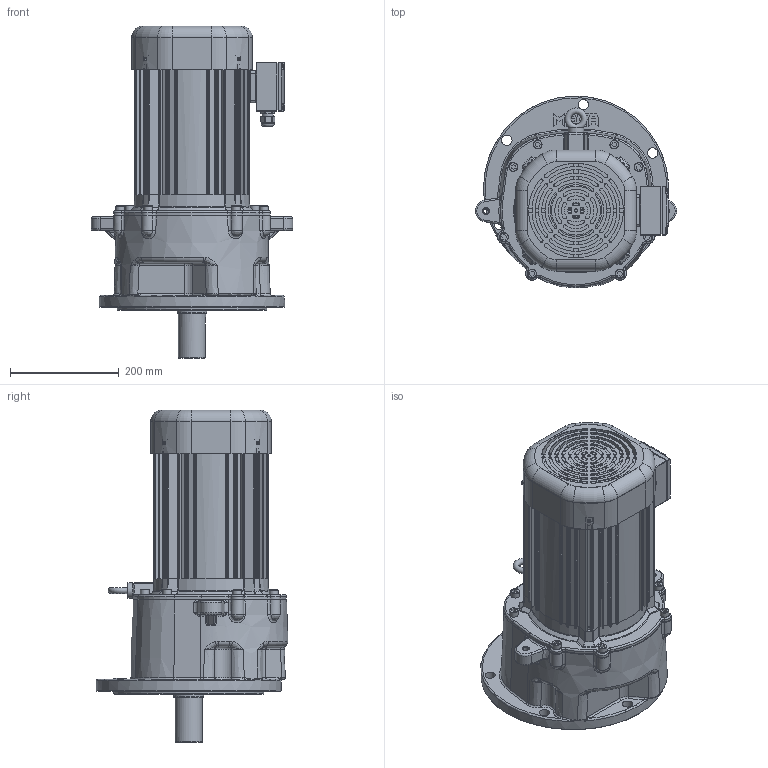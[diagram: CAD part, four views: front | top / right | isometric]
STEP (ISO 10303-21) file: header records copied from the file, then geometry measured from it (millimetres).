
FILE_DESCRIPTION(/* description */ (''),/* implementation_level */ '2;1');
FILE_NAME(/* name */ 'Z:\동력 3D 파일\PMK181_3.7kW_3D.stp',/* time_stamp */ '2021-12-01T09:35:32+09:00',/* author */ ('jaebok'),/* organization */ (''),/* preprocessor_version */ 'ST-DEVELOPER v18.1',/* originating_system */ 'Autodesk Inventor 2022',/* authorisation */ '');
FILE_SCHEMA (('AUTOMOTIVE_DESIGN { 1 0 10303 214 3 1 1 }'));
Length unit declared in the file: millimetre
Products named in the file (1): 부품16
Bounding box: 369.86 x 352.21 x 609.5 mm (x, y, z)
Volume: 8622832.8 mm3; surface area: 1607328.1 mm2
Topology: 5 solids, 44 shells, 3433 faces, 8661 edges, 5145 vertices
Faces by surface type: plane 1043, cylinder 902, bspline 778, torus 389, cone 187, sphere 134
Full cylindrical faces by diameter (mm): 3.25 x1, 3.6 x4, 4 x21, 4.5 x4, 5 x18, 6 x5, 6.8 x4, 7 x8, 8 x9, 8.376 x8, 9 x4, 10 x9, 10.106 x2, 10.2 x1, 11 x8, 12 x2, 12.5 x1, 15 x1, 16 x8, 19 x6, 20 x2, 21 x1, 23.6 x1, 25 x1, 26 x1, 28 x1, 31 x1, 36 x2, 48 x1, 49.6 x1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
Entity records: 131955 total; most frequent: CARTESIAN_POINT 51077, ORIENTED_EDGE 16764, DIRECTION 15350, EDGE_CURVE 8382, AXIS2_PLACEMENT_3D 6193, VERTEX_POINT 5145, EDGE_LOOP 3693, CIRCLE 3509
